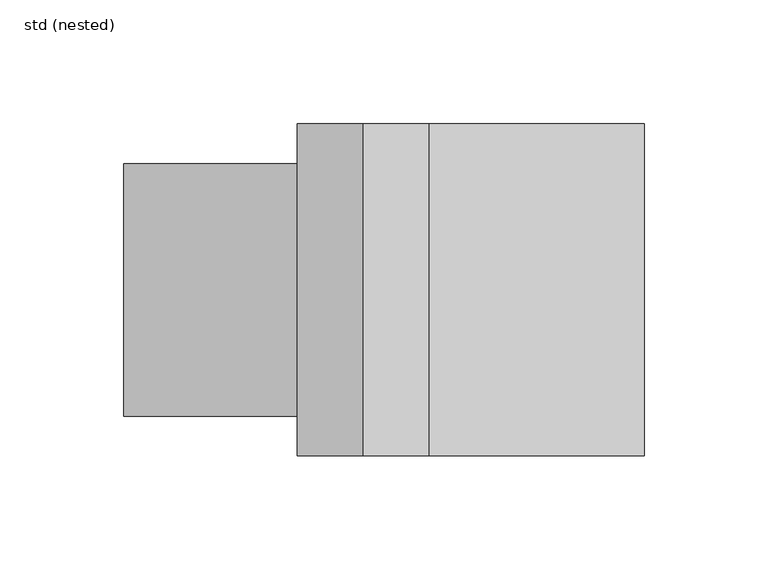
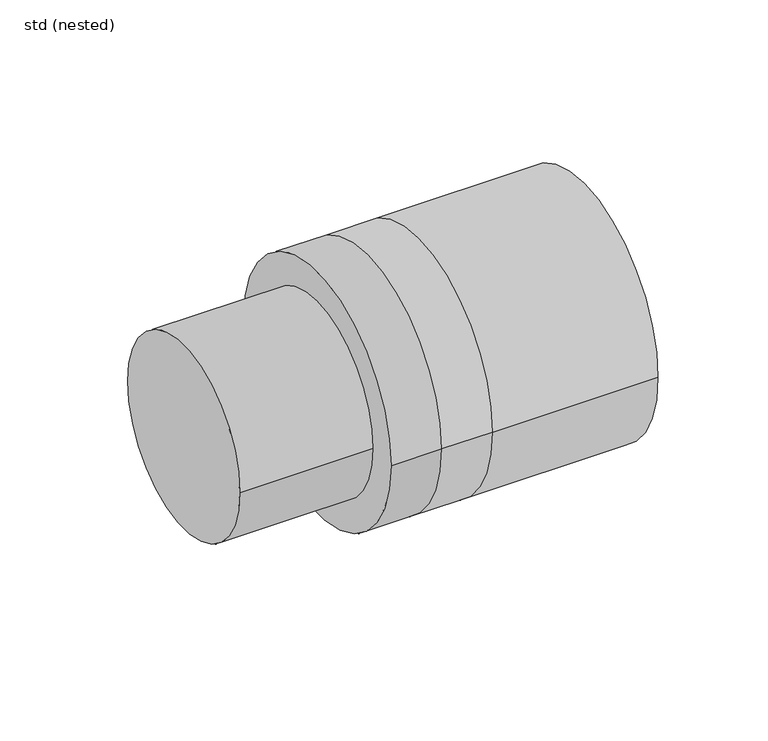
"""IFC4 building model written with IfcOpenShell, lengths in millimetres: pipe fitting geometry, ZZZ_do not use_PIF_ST_WPB_GM-X compound pipe reducer_ACO : std (nested)."""

from ifc_helpers import new_model, si_unit, point, frame, origin, origin_2d, place, context, project, spatial, polyline, circle_curve, trimmed, segment, composite_curve, outline, extrude, source, transform, mapped, element, save
from ifc_brep_helpers import plane_surface, cylinder_surface, revolved_surface, advanced_brep


def std_nested_34ded061(model_context):
    return source(origin(), model_context, "Body", "SolidModel", [
        advanced_brep(
        [(201.8, 51.3, 0.0), (201.8, -51.3, 0.0), (179.0, -51.3, 0.0), (179.0, 51.3, 0.0), (210.0, -46.0, 0.0), (210.0, 46.0, 0.0), (210.0, 44.5, 0.0), (210.0, -44.5, 0.0), (150.0, -46.0, 0.0), (150.0, 46.0, 0.0), (150.0, -44.5, 0.0), (150.0, 44.5, 0.0), (201.8, -46.0, 0.0), (201.8, 46.0, 0.0), (179.0, 46.0, 0.0), (179.0, -46.0, 0.0)],
        [
            (0, 1, circle_curve(frame((201.8, 0.0, 0.0), z_axis=(-1.0, 0.0, 0.0), x_axis=(0.0, 1.0, 0.0)), 51.3)),
            (1, 2),
            (2, 3, circle_curve(frame((179.0, 0.0, 0.0), z_axis=(1.0, 0.0, 0.0), x_axis=(0.0, 1.0, 0.0)), 51.3)),
            (3, 0),
            (1, 0, circle_curve(frame((201.8, 0.0, 0.0), z_axis=(-1.0, 0.0, 0.0), x_axis=(0.0, 1.0, 0.0)), 51.3)),
            (3, 2, circle_curve(frame((179.0, 0.0, 0.0), z_axis=(1.0, 0.0, 0.0), x_axis=(0.0, 1.0, 0.0)), 51.3)),
            (4, 5, circle_curve(frame((210.0, 0.0, 0.0), z_axis=(1.0, 0.0, 0.0), x_axis=(0.0, 1.0, 0.0)), 46.0)),
            (5, 4, circle_curve(frame((210.0, 0.0, 0.0), z_axis=(1.0, 0.0, 0.0), x_axis=(0.0, 1.0, 0.0)), 46.0)),
            (6, 7, circle_curve(frame((210.0, 0.0, 0.0), z_axis=(-1.0, 0.0, 0.0), x_axis=(0.0, 1.0, 0.0)), 44.5)),
            (7, 6, circle_curve(frame((210.0, 0.0, 0.0), z_axis=(-1.0, 0.0, 0.0), x_axis=(0.0, 1.0, 0.0)), 44.5)),
            (8, 9, circle_curve(frame((150.0, 0.0, 0.0), z_axis=(-1.0, 0.0, 0.0), x_axis=(0.0, 1.0, 0.0)), 46.0)),
            (9, 8, circle_curve(frame((150.0, 0.0, 0.0), z_axis=(-1.0, 0.0, 0.0), x_axis=(0.0, 1.0, 0.0)), 46.0)),
            (10, 11, circle_curve(frame((150.0, 0.0, 0.0), z_axis=(1.0, 0.0, 0.0), x_axis=(0.0, 1.0, 0.0)), 44.5)),
            (11, 10, circle_curve(frame((150.0, 0.0, 0.0), z_axis=(1.0, 0.0, 0.0), x_axis=(0.0, 1.0, 0.0)), 44.5)),
            (4, 12),
            (12, 13, circle_curve(frame((201.8, 0.0, 0.0), z_axis=(1.0, 0.0, 0.0), x_axis=(0.0, 1.0, 0.0)), 46.0)),
            (13, 5),
            (9, 14),
            (14, 15, circle_curve(frame((179.0, 0.0, 0.0), z_axis=(-1.0, 0.0, 0.0), x_axis=(0.0, 1.0, 0.0)), 46.0)),
            (15, 8),
            (13, 12, circle_curve(frame((201.8, 0.0, 0.0), z_axis=(1.0, 0.0, 0.0), x_axis=(0.0, 1.0, 0.0)), 46.0)),
            (15, 14, circle_curve(frame((179.0, 0.0, 0.0), z_axis=(-1.0, 0.0, 0.0), x_axis=(0.0, 1.0, 0.0)), 46.0)),
            (6, 11),
            (10, 7),
        ],
        [
            cylinder_surface(frame((179.0, 0.0, 0.0), z_axis=(1.0, 0.0, 0.0), x_axis=(0.0, 1.0, 0.0)), 51.3),
            plane_surface(frame((210.0, 46.0, 0.0), z_axis=(1.0, 0.0, 0.0), x_axis=(0.0, 0.0, 1.0))),
            plane_surface(frame((150.0, 46.0, 0.0), z_axis=(-1.0, 0.0, 0.0), x_axis=(0.0, 0.0, -1.0))),
            cylinder_surface(frame((150.0, 0.0, 0.0), z_axis=(1.0, 0.0, 0.0), x_axis=(0.0, 1.0, 0.0)), 46.0),
            revolved_surface(polyline([(210.0, 44.5, 0.0), (150.0, 44.5, 0.0)]), (150.0, 0.0, 0.0), (1.0, 0.0, 0.0)),
            plane_surface(frame((201.8, 51.3, 0.0), z_axis=(1.0, 0.0, 0.0), x_axis=(0.0, 0.0, 1.0))),
            plane_surface(frame((179.0, 51.3, 0.0), z_axis=(-1.0, 0.0, 0.0), x_axis=(0.0, 0.0, -1.0))),
        ],
        [
            (0, [[1, 2, 3, 4]]),
            (0, [[5, -4, 6, -2]]),
            (1, [[7, 8], [9, 10]]),
            (2, [[11, 12], [13, 14]]),
            (3, [[-7, 15, 16, 17]]),
            (3, [[-12, 18, 19, 20]]),
            (3, [[-8, -17, 21, -15]]),
            (3, [[-11, -20, 22, -18]]),
            (4, [[23, -13, 24, -9]]),
            (4, [[-23, -10, -24, -14]]),
            (5, [[-1, -5], [-16, -21]]),
            (6, [[-6, -3], [-19, -22]]),
        ],
    ),
        advanced_brep(
        [(210.0, 67.0, 0.0), (210.0, -67.0, 0.0), (210.0, -46.0, 0.0), (210.0, 46.0, 0.0), (123.3333333, 67.0, 0.0), (123.3333333, -67.0, 0.0), (150.0, 46.0, 0.0), (150.0, -46.0, 0.0), (96.6666667, 67.0, 0.0), (96.6666667, -67.0, 0.0), (70.0, -67.0, 0.0), (70.0, 67.0, 0.0)],
        [
            (0, 1, circle_curve(frame((210.0, 0.0, 0.0), z_axis=(1.0, 0.0, 0.0), x_axis=(0.0, -1.0, 0.0)), 67.0)),
            (1, 0, circle_curve(frame((210.0, 0.0, 0.0), z_axis=(1.0, 0.0, 0.0), x_axis=(0.0, -1.0, 0.0)), 67.0)),
            (2, 3, circle_curve(frame((210.0, 0.0, 0.0), z_axis=(-1.0, 0.0, 0.0), x_axis=(0.0, -1.0, 0.0)), 46.0)),
            (3, 2, circle_curve(frame((210.0, 0.0, 0.0), z_axis=(-1.0, 0.0, 0.0), x_axis=(0.0, -1.0, 0.0)), 46.0)),
            (0, 4),
            (4, 5, circle_curve(frame((123.3333333, 0.0, 0.0), z_axis=(1.0, 0.0, 0.0), x_axis=(0.0, -1.0, 0.0)), 67.0)),
            (5, 1),
            (5, 4, circle_curve(frame((123.3333333, 0.0, 0.0), z_axis=(1.0, 0.0, 0.0), x_axis=(0.0, -1.0, 0.0)), 67.0)),
            (6, 7, circle_curve(frame((150.0, 0.0, 0.0), z_axis=(1.0, 0.0, 0.0), x_axis=(0.0, -1.0, 0.0)), 46.0)),
            (7, 6, circle_curve(frame((150.0, 0.0, 0.0), z_axis=(1.0, 0.0, 0.0), x_axis=(0.0, -1.0, 0.0)), 46.0)),
            (6, 3),
            (2, 7),
            (8, 4),
            (5, 9),
            (9, 8, circle_curve(frame((96.6666667, 0.0, 0.0), z_axis=(1.0, 0.0, 0.0), x_axis=(0.0, 0.0, -1.0)), 67.0)),
            (8, 9, circle_curve(frame((96.6666667, 0.0, 0.0), z_axis=(1.0, 0.0, 0.0), x_axis=(0.0, 0.0, 1.0)), 67.0)),
            (10, 11, circle_curve(frame((70.0, 0.0, 0.0), z_axis=(-1.0, 0.0, 0.0), x_axis=(0.0, 1.0, 0.0)), 67.0)),
            (11, 10, circle_curve(frame((70.0, 0.0, 0.0), z_axis=(-1.0, 0.0, 0.0), x_axis=(0.0, 1.0, 0.0)), 67.0)),
            (10, 9),
            (8, 11),
        ],
        [
            plane_surface(frame((210.0, -67.0, 0.0), z_axis=(1.0, 0.0, 0.0), x_axis=(0.0, 0.0, -1.0))),
            cylinder_surface(frame((123.3333333, 0.0, 0.0), z_axis=(1.0, 0.0, 0.0), x_axis=(0.0, -1.0, 0.0)), 67.0),
            plane_surface(frame((150.0, -46.0, 0.0), z_axis=(1.0, 0.0, 0.0), x_axis=(0.0, 0.0, 1.0))),
            revolved_surface(polyline([(210.0, -46.0, 0.0), (150.0, -46.0, 0.0)]), (150.0, 0.0, 0.0), (1.0, 0.0, 0.0)),
            cylinder_surface(frame((96.6666667, 0.0, 0.0), z_axis=(1.0, 0.0, 0.0), x_axis=(0.0, 0.0, -1.0)), 67.0),
            cylinder_surface(frame((96.6666667, 0.0, 0.0), z_axis=(1.0, 0.0, 0.0), x_axis=(0.0, 0.0, 1.0)), 67.0),
            plane_surface(frame((70.0, 67.0, 0.0), z_axis=(-1.0, 0.0, 0.0), x_axis=(0.0, 0.0, -1.0))),
            cylinder_surface(frame((96.6666667, 0.0, 0.0), z_axis=(-1.0, 0.0, 0.0), x_axis=(0.0, 1.0, 0.0)), 67.0),
        ],
        [
            (0, [[1, 2], [3, 4]]),
            (1, [[-1, 5, 6, 7]]),
            (1, [[-2, -7, 8, -5]]),
            (2, [[9, 10]]),
            (3, [[-9, 11, -3, 12]]),
            (3, [[-10, -12, -4, -11]]),
            (4, [[13, -8, 14, 15]]),
            (5, [[-13, 16, -14, -6]]),
            (6, [[17, 18]]),
            (7, [[-17, 19, -16, 20]]),
            (7, [[-18, -20, -15, -19]]),
        ],
    ),
        extrude(outline(composite_curve([segment(trimmed(circle_curve(origin_2d(), 51.0), [point((-51.0, 0.0))], [point((51.0, 0.0))], False, "CARTESIAN"), True, "CONTINUOUS"), segment(trimmed(circle_curve(origin_2d(), 51.0), [point((51.0, 0.0))], [point((-51.0, 0.0))], False, "CARTESIAN"), True, "CONTINUOUS")], self_intersect=False)), frame((0.0, 0.0, 0.0), z_axis=(1.0, 0.0, 0.0), x_axis=(0.0, 1.0, 0.0)), (0.0, 0.0, 1.0), 70.0),
    ])


if __name__ == "__main__":
    model = new_model("IFC4")
    model_context = context("Model", 3, world=origin())
    ifc_project = project(units=[si_unit("LENGTHUNIT", "METRE", prefix="MILLI")], contexts=[model_context])
    site = spatial("IfcSite", under=ifc_project)
    building = spatial("IfcBuilding", under=site)
    placement = place(None, origin())
    std_nested_shape = std_nested_34ded061(model_context)
    element("IfcPipeFitting", 1, ObjectType="ZZZ_do not use_PIF_ST_WPB_GM-X compound pipe reducer_ACO : std (nested)", at=placement, inside=building, context=model_context, shape_type="MappedRepresentation", body=[
        mapped(std_nested_shape, transform((0.0, 0.0, 0.0), x_axis=(1.0, 0.0, 0.0), y_axis=(0.0, 1.0, 0.0), z_axis=(0.0, 0.0, 1.0))),
    ])
    save(model, "model.ifc")
